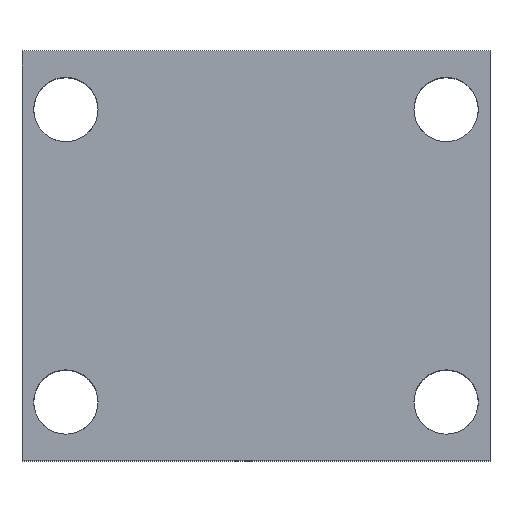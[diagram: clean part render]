
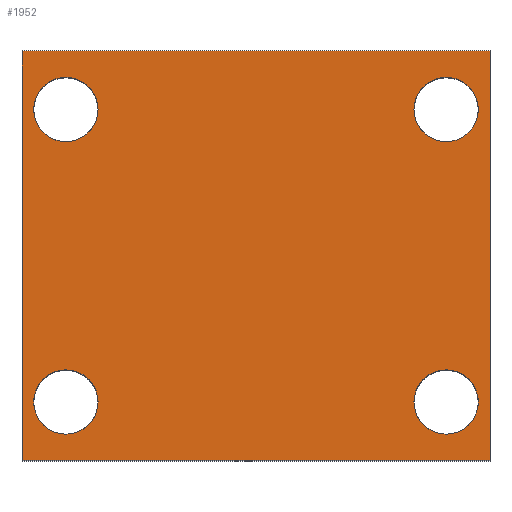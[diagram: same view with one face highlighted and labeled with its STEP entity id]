
A CAD part, top view. The second image highlights one B-rep face of the part: STEP entity #1952.
In plain terms, the highlighted planar face has unit normal (0, 0, 1).
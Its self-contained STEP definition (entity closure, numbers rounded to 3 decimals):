
#179 = AXIS2_PLACEMENT_3D ( 'NONE', #5285, #3954, #13412 ) ;
#328 = DIRECTION ( 'NONE',  ( 0., 0., -1. ) ) ;
#394 = CARTESIAN_POINT ( 'NONE',  ( 65., 120., 52.5 ) ) ;
#424 = CARTESIAN_POINT ( 'NONE',  ( 76., 20., 52.5 ) ) ;
#464 = AXIS2_PLACEMENT_3D ( 'NONE', #394, #10101, #1835 ) ;
#473 = VERTEX_POINT ( 'NONE', #10608 ) ;
#727 = DIRECTION ( 'NONE',  ( 0., 0., -1. ) ) ;
#780 = ORIENTED_EDGE ( 'NONE', *, *, #7371, .T. ) ;
#831 = CARTESIAN_POINT ( 'NONE',  ( -80., 140., 52.5 ) ) ;
#881 = VERTEX_POINT ( 'NONE', #424 ) ;
#1112 = PLANE ( 'NONE',  #179 ) ;
#1339 = CARTESIAN_POINT ( 'NONE',  ( -80., 0., 52.5 ) ) ;
#1341 = CIRCLE ( 'NONE', #17315, 11. ) ;
#1374 = EDGE_LOOP ( 'NONE', ( #10517, #17689 ) ) ;
#1505 = ORIENTED_EDGE ( 'NONE', *, *, #7395, .F. ) ;
#1741 = CARTESIAN_POINT ( 'NONE',  ( -54., 20., 52.5 ) ) ;
#1835 = DIRECTION ( 'NONE',  ( -1., 0., 0. ) ) ;
#1952 = ADVANCED_FACE ( 'NONE', ( #6037, #2357, #16860, #13644, #16416 ), #1112, .F. ) ;
#2086 = EDGE_CURVE ( 'NONE', #5341, #17455, #14739, .T. ) ;
#2170 = EDGE_CURVE ( 'NONE', #14646, #17518, #17460, .T. ) ;
#2206 = CARTESIAN_POINT ( 'NONE',  ( 80., 0., 52.5 ) ) ;
#2228 = EDGE_CURVE ( 'NONE', #881, #7601, #12966, .T. ) ;
#2307 = EDGE_CURVE ( 'NONE', #2505, #473, #15781, .T. ) ;
#2357 = FACE_BOUND ( 'NONE', #3023, .T. ) ;
#2505 = VERTEX_POINT ( 'NONE', #16495 ) ;
#3023 = EDGE_LOOP ( 'NONE', ( #7234, #12957 ) ) ;
#3253 = CARTESIAN_POINT ( 'NONE',  ( 80., 140., 52.5 ) ) ;
#3337 = CARTESIAN_POINT ( 'NONE',  ( -65., 20., 52.5 ) ) ;
#3526 = ORIENTED_EDGE ( 'NONE', *, *, #7350, .T. ) ;
#3657 = VERTEX_POINT ( 'NONE', #14682 ) ;
#3954 = DIRECTION ( 'NONE',  ( 0., 0., -1. ) ) ;
#4143 = AXIS2_PLACEMENT_3D ( 'NONE', #5643, #15140, #7030 ) ;
#4219 = VECTOR ( 'NONE', #4662, 1000. ) ;
#4363 = CARTESIAN_POINT ( 'NONE',  ( -80., 140., 52.5 ) ) ;
#4422 = DIRECTION ( 'NONE',  ( 0., -1., 0. ) ) ;
#4660 = LINE ( 'NONE', #3253, #4219 ) ;
#4662 = DIRECTION ( 'NONE',  ( 0., -1., 0. ) ) ;
#4738 = DIRECTION ( 'NONE',  ( -1., 0., 0. ) ) ;
#5099 = VERTEX_POINT ( 'NONE', #15161 ) ;
#5120 = ORIENTED_EDGE ( 'NONE', *, *, #2307, .T. ) ;
#5143 = ORIENTED_EDGE ( 'NONE', *, *, #2228, .T. ) ;
#5278 = EDGE_CURVE ( 'NONE', #3657, #5099, #5543, .T. ) ;
#5285 = CARTESIAN_POINT ( 'NONE',  ( -80., 140., 52.5 ) ) ;
#5341 = VERTEX_POINT ( 'NONE', #12000 ) ;
#5365 = ORIENTED_EDGE ( 'NONE', *, *, #5278, .F. ) ;
#5421 = EDGE_LOOP ( 'NONE', ( #780, #1505, #5365, #14940 ) ) ;
#5543 = LINE ( 'NONE', #831, #15096 ) ;
#5643 = CARTESIAN_POINT ( 'NONE',  ( 65., 20., 52.5 ) ) ;
#5754 = CARTESIAN_POINT ( 'NONE',  ( 54., 20., 52.5 ) ) ;
#5892 = DIRECTION ( 'NONE',  ( 0., 0., -1. ) ) ;
#5916 = VERTEX_POINT ( 'NONE', #1339 ) ;
#5956 = CARTESIAN_POINT ( 'NONE',  ( -76., 20., 52.5 ) ) ;
#6037 = FACE_BOUND ( 'NONE', #1374, .T. ) ;
#6444 = CARTESIAN_POINT ( 'NONE',  ( 65., 120., 52.5 ) ) ;
#6735 = AXIS2_PLACEMENT_3D ( 'NONE', #7126, #16583, #8522 ) ;
#7030 = DIRECTION ( 'NONE',  ( -1., 0., 0. ) ) ;
#7126 = CARTESIAN_POINT ( 'NONE',  ( -65., 120., 52.5 ) ) ;
#7234 = ORIENTED_EDGE ( 'NONE', *, *, #7320, .T. ) ;
#7290 = EDGE_CURVE ( 'NONE', #3657, #5916, #12647, .T. ) ;
#7318 = EDGE_CURVE ( 'NONE', #17455, #5341, #8747, .T. ) ;
#7320 = EDGE_CURVE ( 'NONE', #17518, #14646, #1341, .T. ) ;
#7350 = EDGE_CURVE ( 'NONE', #473, #2505, #11828, .T. ) ;
#7371 = EDGE_CURVE ( 'NONE', #5916, #15349, #8296, .T. ) ;
#7395 = EDGE_CURVE ( 'NONE', #5099, #15349, #4660, .T. ) ;
#7601 = VERTEX_POINT ( 'NONE', #5754 ) ;
#7839 = DIRECTION ( 'NONE',  ( -1., 0., 0. ) ) ;
#8296 = LINE ( 'NONE', #8748, #11416 ) ;
#8522 = DIRECTION ( 'NONE',  ( -1., 0., 0. ) ) ;
#8690 = CARTESIAN_POINT ( 'NONE',  ( -65., 20., 52.5 ) ) ;
#8747 = CIRCLE ( 'NONE', #16390, 11. ) ;
#8748 = CARTESIAN_POINT ( 'NONE',  ( -80., 0., 52.5 ) ) ;
#8916 = EDGE_CURVE ( 'NONE', #7601, #881, #15030, .T. ) ;
#9068 = CARTESIAN_POINT ( 'NONE',  ( 65., 20., 52.5 ) ) ;
#9193 = VECTOR ( 'NONE', #4422, 1000. ) ;
#10050 = DIRECTION ( 'NONE',  ( -1., 0., 0. ) ) ;
#10101 = DIRECTION ( 'NONE',  ( 0., 0., -1. ) ) ;
#10387 = DIRECTION ( 'NONE',  ( -1., 0., 0. ) ) ;
#10393 = AXIS2_PLACEMENT_3D ( 'NONE', #3337, #12784, #4738 ) ;
#10517 = ORIENTED_EDGE ( 'NONE', *, *, #7318, .T. ) ;
#10608 = CARTESIAN_POINT ( 'NONE',  ( 54., 120., 52.5 ) ) ;
#11416 = VECTOR ( 'NONE', #12648, 1000. ) ;
#11603 = ORIENTED_EDGE ( 'NONE', *, *, #8916, .T. ) ;
#11828 = CIRCLE ( 'NONE', #464, 11. ) ;
#11953 = DIRECTION ( 'NONE',  ( 1., 0., 0. ) ) ;
#12000 = CARTESIAN_POINT ( 'NONE',  ( -54., 120., 52.5 ) ) ;
#12647 = LINE ( 'NONE', #4363, #9193 ) ;
#12648 = DIRECTION ( 'NONE',  ( 1., 0., 0. ) ) ;
#12784 = DIRECTION ( 'NONE',  ( 0., 0., -1. ) ) ;
#12957 = ORIENTED_EDGE ( 'NONE', *, *, #2170, .T. ) ;
#12966 = CIRCLE ( 'NONE', #13025, 11. ) ;
#13025 = AXIS2_PLACEMENT_3D ( 'NONE', #9068, #727, #10387 ) ;
#13412 = DIRECTION ( 'NONE',  ( -1., 0., 0. ) ) ;
#13644 = FACE_BOUND ( 'NONE', #15811, .T. ) ;
#14010 = CARTESIAN_POINT ( 'NONE',  ( -65., 120., 52.5 ) ) ;
#14646 = VERTEX_POINT ( 'NONE', #1741 ) ;
#14682 = CARTESIAN_POINT ( 'NONE',  ( -80., 140., 52.5 ) ) ;
#14739 = CIRCLE ( 'NONE', #6735, 11. ) ;
#14755 = EDGE_LOOP ( 'NONE', ( #11603, #5143 ) ) ;
#14940 = ORIENTED_EDGE ( 'NONE', *, *, #7290, .T. ) ;
#15030 = CIRCLE ( 'NONE', #4143, 11. ) ;
#15096 = VECTOR ( 'NONE', #11953, 1000. ) ;
#15140 = DIRECTION ( 'NONE',  ( 0., 0., -1. ) ) ;
#15161 = CARTESIAN_POINT ( 'NONE',  ( 80., 140., 52.5 ) ) ;
#15349 = VERTEX_POINT ( 'NONE', #2206 ) ;
#15391 = DIRECTION ( 'NONE',  ( -1., 0., 0. ) ) ;
#15781 = CIRCLE ( 'NONE', #17589, 11. ) ;
#15811 = EDGE_LOOP ( 'NONE', ( #3526, #5120 ) ) ;
#15927 = DIRECTION ( 'NONE',  ( 0., 0., -1. ) ) ;
#16390 = AXIS2_PLACEMENT_3D ( 'NONE', #14010, #5892, #15391 ) ;
#16416 = FACE_OUTER_BOUND ( 'NONE', #5421, .T. ) ;
#16495 = CARTESIAN_POINT ( 'NONE',  ( 76., 120., 52.5 ) ) ;
#16583 = DIRECTION ( 'NONE',  ( 0., 0., -1. ) ) ;
#16860 = FACE_BOUND ( 'NONE', #14755, .T. ) ;
#17315 = AXIS2_PLACEMENT_3D ( 'NONE', #8690, #328, #10050 ) ;
#17455 = VERTEX_POINT ( 'NONE', #17537 ) ;
#17460 = CIRCLE ( 'NONE', #10393, 11. ) ;
#17518 = VERTEX_POINT ( 'NONE', #5956 ) ;
#17537 = CARTESIAN_POINT ( 'NONE',  ( -76., 120., 52.5 ) ) ;
#17589 = AXIS2_PLACEMENT_3D ( 'NONE', #6444, #15927, #7839 ) ;
#17689 = ORIENTED_EDGE ( 'NONE', *, *, #2086, .T. ) ;
